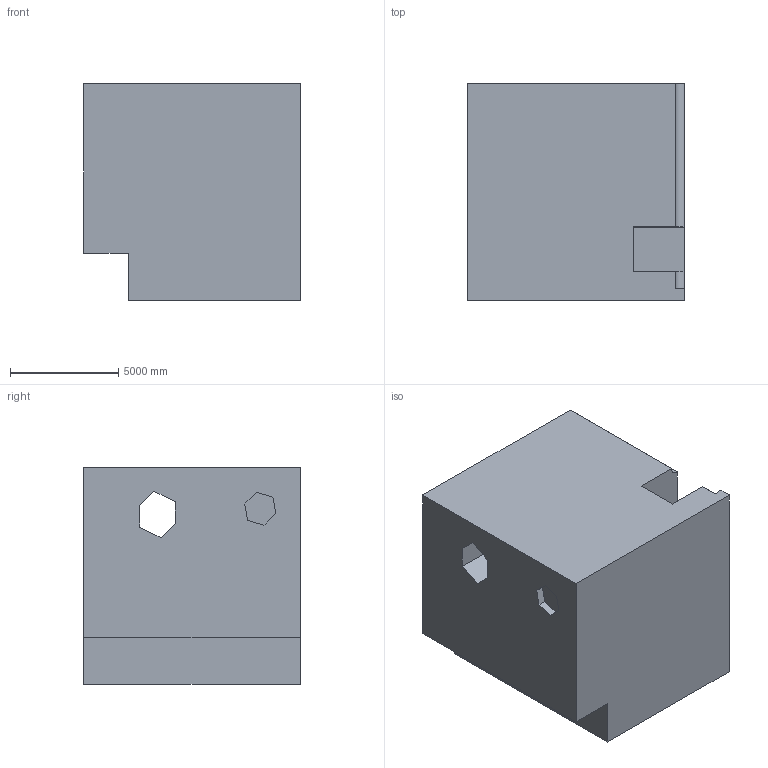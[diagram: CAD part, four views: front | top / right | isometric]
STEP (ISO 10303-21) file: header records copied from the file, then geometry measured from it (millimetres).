
FILE_DESCRIPTION (( 'STEP AP203' ), '1' );
FILE_NAME ('44.STEP', '2022-09-01T11:44:43', ( 'user' ), ( '' ), 'SwSTEP 2.0', 'SolidWorks 2021', '' );
FILE_SCHEMA (( 'CONFIG_CONTROL_DESIGN' ));
Length unit declared in the file: centimetre
Products named in the file (1): 44
Bounding box: 10000 x 10000 x 10000 mm (x, y, z)
Volume: 906866262194.2 mm3; surface area: 667346040.9 mm2
Topology: 1 solids, 1 shells, 28 faces, 75 edges, 50 vertices
Faces by surface type: plane 26, cylinder 2
Entity records: 944 total; most frequent: CARTESIAN_POINT 154, ORIENTED_EDGE 150, DIRECTION 137, EDGE_CURVE 75, VECTOR 71, LINE 71, VERTEX_POINT 50, AXIS2_PLACEMENT_3D 33
